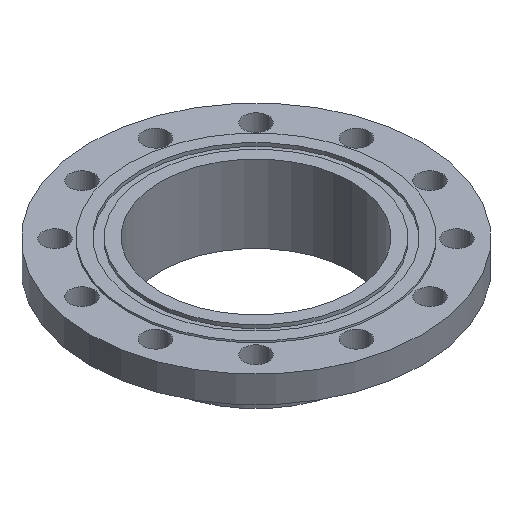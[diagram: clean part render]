
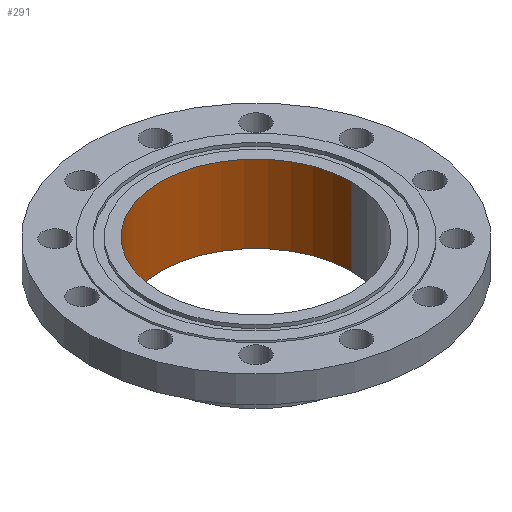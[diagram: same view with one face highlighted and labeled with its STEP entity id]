
A CAD part, isometric view. The second image highlights one B-rep face of the part: STEP entity #291.
In plain terms, the highlighted cylindrical face has radius 129.4 mm (diameter 258.8 mm), a partial arc.
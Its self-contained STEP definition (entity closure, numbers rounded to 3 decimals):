
#32 = AXIS2_PLACEMENT_3D ( 'NONE', #781, #783, #773 ) ;
#205 = EDGE_CURVE ( 'NONE', #1574, #1044, #827, .T. ) ;
#228 = EDGE_CURVE ( 'NONE', #1574, #1499, #275, .T. ) ;
#254 = EDGE_CURVE ( 'NONE', #1044, #1546, #608, .T. ) ;
#275 = CIRCLE ( 'NONE', #1160, 129.4 ) ;
#291 = ADVANCED_FACE ( 'NONE', ( #782 ), #779, .F. ) ;
#389 = EDGE_CURVE ( 'NONE', #1499, #1546, #721, .T. ) ;
#440 = AXIS2_PLACEMENT_3D ( 'NONE', #787, #788, #789 ) ;
#458 = CARTESIAN_POINT ( 'NONE',  ( -129.4, 0., -105. ) ) ;
#560 = VECTOR ( 'NONE', #718, 1000. ) ;
#608 = CIRCLE ( 'NONE', #440, 129.4 ) ;
#718 = DIRECTION ( 'NONE',  ( 0., 0., -1. ) ) ;
#720 = CARTESIAN_POINT ( 'NONE',  ( 129.4, 0., -115. ) ) ;
#721 = LINE ( 'NONE', #720, #560 ) ;
#741 = CARTESIAN_POINT ( 'NONE',  ( 129.4, 0., 0. ) ) ;
#773 = DIRECTION ( 'NONE',  ( -1., 0., 0. ) ) ;
#779 = CYLINDRICAL_SURFACE ( 'NONE', #32, 129.4 ) ;
#781 = CARTESIAN_POINT ( 'NONE',  ( 0., 0., -115. ) ) ;
#782 = FACE_OUTER_BOUND ( 'NONE', #1180, .T. ) ;
#783 = DIRECTION ( 'NONE',  ( 0., 0., -1. ) ) ;
#787 = CARTESIAN_POINT ( 'NONE',  ( 0., 0., -105. ) ) ;
#788 = DIRECTION ( 'NONE',  ( 0., 0., -1. ) ) ;
#789 = DIRECTION ( 'NONE',  ( -1., 0., 0. ) ) ;
#801 = DIRECTION ( 'NONE',  ( -1., 0., 0. ) ) ;
#802 = DIRECTION ( 'NONE',  ( 0., 0., -1. ) ) ;
#803 = CARTESIAN_POINT ( 'NONE',  ( 0., 0., 0. ) ) ;
#825 = DIRECTION ( 'NONE',  ( 0., 0., -1. ) ) ;
#826 = CARTESIAN_POINT ( 'NONE',  ( -129.4, 0., -115. ) ) ;
#827 = LINE ( 'NONE', #826, #1139 ) ;
#1044 = VERTEX_POINT ( 'NONE', #458 ) ;
#1139 = VECTOR ( 'NONE', #825, 1000. ) ;
#1160 = AXIS2_PLACEMENT_3D ( 'NONE', #803, #802, #801 ) ;
#1180 = EDGE_LOOP ( 'NONE', ( #1390, #1391, #1393, #1394 ) ) ;
#1307 = CARTESIAN_POINT ( 'NONE',  ( -129.4, 0., 0. ) ) ;
#1390 = ORIENTED_EDGE ( 'NONE', *, *, #389, .F. ) ;
#1391 = ORIENTED_EDGE ( 'NONE', *, *, #228, .F. ) ;
#1393 = ORIENTED_EDGE ( 'NONE', *, *, #205, .T. ) ;
#1394 = ORIENTED_EDGE ( 'NONE', *, *, #254, .T. ) ;
#1469 = CARTESIAN_POINT ( 'NONE',  ( 129.4, 0., -105. ) ) ;
#1499 = VERTEX_POINT ( 'NONE', #741 ) ;
#1546 = VERTEX_POINT ( 'NONE', #1469 ) ;
#1574 = VERTEX_POINT ( 'NONE', #1307 ) ;
